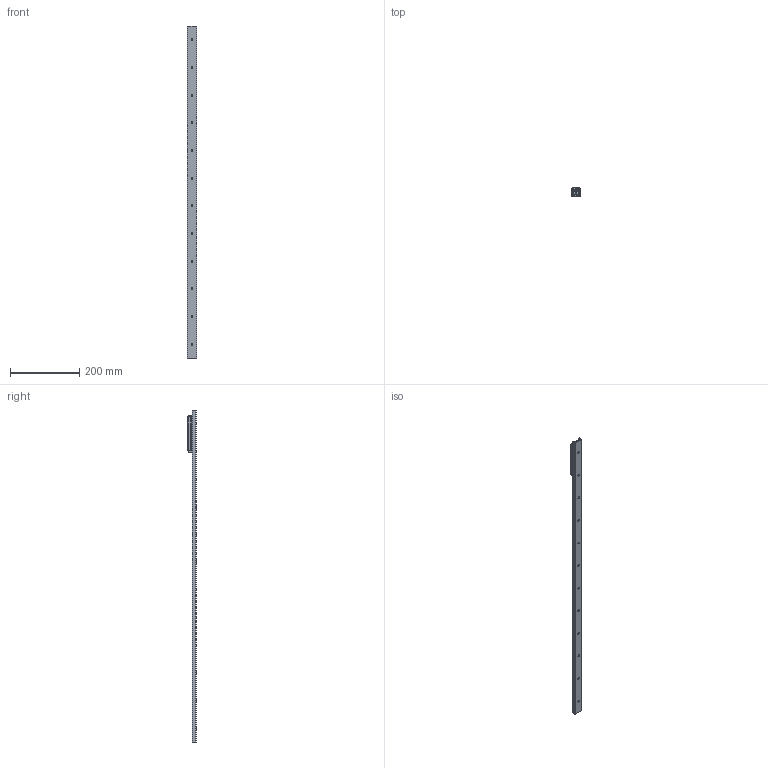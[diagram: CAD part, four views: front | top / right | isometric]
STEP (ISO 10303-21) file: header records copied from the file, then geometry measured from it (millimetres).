
FILE_DESCRIPTION( ( 'STEP AP214' ), '1' );
FILE_NAME( 'p:/temp/worker_22/temp/exporttempdir_4944_552_NNtRo/format_2/TGV-00960_1_RV28G-3.stp', '2020-11-20T15:18:20', ( 'License CC BY-ND 4.0' ), ( 'CADENAS' ), ' ', 'PARTsolutions', ' ' );
FILE_SCHEMA( ( 'AUTOMOTIVE_DESIGN { 1 0 10303 214 1 1 1 1 }' ) );
Length unit declared in the file: millimetre
Products named in the file (6): TGV-00960/1/RV28G-3; _TGV28-0960-(3-1); _RV28G-3-slider; _RGNV28R; _RGAV28R; _WR28G-01
Assembly tree (7 placements, depth 2):
  TGV-00960/1/RV28G-3
    _TGV28-0960-(3-1)
    _RV28G-3-slider
    _RGNV28R  x2
    _RGAV28R
    _WR28G-01  x2
Bounding box: 28 x 24 x 960 mm (x, y, z)
Volume: 175100.4 mm3; surface area: 110637.2 mm2
Topology: 7 solids, 7 shells, 1036 faces, 2705 edges, 1765 vertices
Faces by surface type: plane 657, cylinder 292, cone 52, bspline 26, torus 9
Full cylindrical faces by diameter (mm): 1.27 x4, 2 x2, 2.5 x6, 4 x4, 4.134 x4, 4.2 x3, 5 x3, 5.5 x3, 5.75 x12, 7 x5, 7.5 x1, 8 x6, 10.8 x3, 17 x3, 20.75 x6
Entity records: 24891 total; most frequent: CARTESIAN_POINT 3971, DIRECTION 3320, ORIENTED_EDGE 3066, EDGE_CURVE 1533, AXIS2_PLACEMENT_3D 1265, VERTEX_POINT 1065, EDGE_LOOP 863, LINE 790
